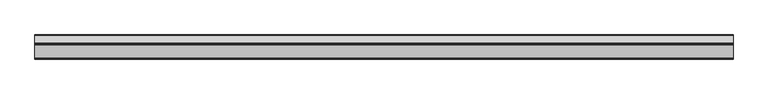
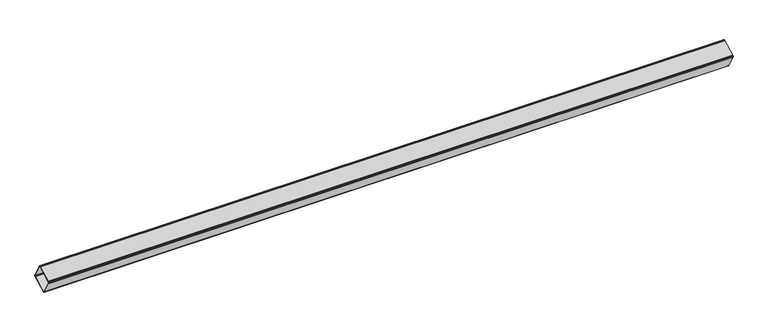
"""IFC4 building model written with IfcOpenShell, lengths in millimetres: beam geometry, Buton 146752 : Buton 146752."""

from ifc_helpers import new_model, si_unit, frame, origin, place, context, project, spatial, polyline, outline, extrude, source, transform, mapped, element, save


def beam_ceff8ac1(model_context):
    return source(origin(), model_context, "Body", "SweptSolid", [
        extrude(outline(polyline([(-26354.0277892, 9778.972559), (-26280.653053, 9819.8644664), (-26278.3030118, 9820.7259025), (-26275.8017914, 9820.8189743), (-26273.3942286, 9820.1345712), (-26271.3159926, 9818.7396873), (-26269.7705155, 9816.7708637), (-26228.8786081, 9743.3961275), (-26228.017172, 9741.0460863), (-26227.9241002, 9738.5448659), (-26228.6085034, 9736.1373032), (-26230.0033872, 9734.0590671), (-26231.9722108, 9732.5135901), (-26305.346947, 9691.6216826), (-26307.6969882, 9690.7602465), (-26310.1982086, 9690.6671748), (-26312.6057714, 9691.3515779), (-26314.6840074, 9692.7464617), (-26316.2294845, 9694.7152854), (-26357.1213919, 9768.0900215), (-26357.982828, 9770.4400627), (-26358.0758998, 9772.9412831), (-26357.3914966, 9775.3488459), (-26355.9966128, 9777.4270819), (-26354.0277892, 9778.972559)]), holes=[polyline([(-26353.6273569, 9770.0372552), (-26312.7354494, 9696.662519), (-26311.9627109, 9695.6781072), (-26310.9235929, 9694.9806653), (-26309.7198115, 9694.6384637), (-26308.4692013, 9694.6849996), (-26307.2941807, 9695.1157177), (-26233.9194445, 9736.0076251), (-26232.9350327, 9736.7803637), (-26232.2375908, 9737.8194817), (-26231.8953892, 9739.023263), (-26231.9419251, 9740.2738732), (-26232.3726431, 9741.4488938), (-26273.2645506, 9814.82363), (-26274.0372891, 9815.8080418), (-26275.0764071, 9816.5054837), (-26276.2801885, 9816.8476853), (-26277.5307987, 9816.8011494), (-26278.7058193, 9816.3704314), (-26352.0805555, 9775.4785239), (-26353.0649673, 9774.7057854), (-26353.7624092, 9773.6666674), (-26354.1046108, 9772.462886), (-26354.0580749, 9771.2122758), (-26353.6273569, 9770.0372552)])]), frame((-115.0000001, 0.0, 0.0), z_axis=(1.0, 0.0, 0.0), x_axis=(0.0, 1.0, 0.0)), (0.0, 0.0, 1.0), 3767.5),
    ])


if __name__ == "__main__":
    model = new_model("IFC4")
    model_context = context("Model", 3, world=origin())
    ifc_project = project(units=[si_unit("LENGTHUNIT", "METRE", prefix="MILLI")], contexts=[model_context])
    site = spatial("IfcSite", under=ifc_project)
    building = spatial("IfcBuilding", under=site)
    placement = place(None, origin())
    beam_shape = beam_ceff8ac1(model_context)
    element("IfcBeam", 1, ObjectType="Buton 146752 : Buton 146752", at=placement, inside=building, context=model_context, shape_type="MappedRepresentation", body=[
        mapped(beam_shape, transform((0.0, 0.0, 0.0), x_axis=(1.0, 0.0, 0.0), y_axis=(0.0, 1.0, 0.0), z_axis=(0.0, 0.0, 1.0))),
    ])
    save(model, "model.ifc")
